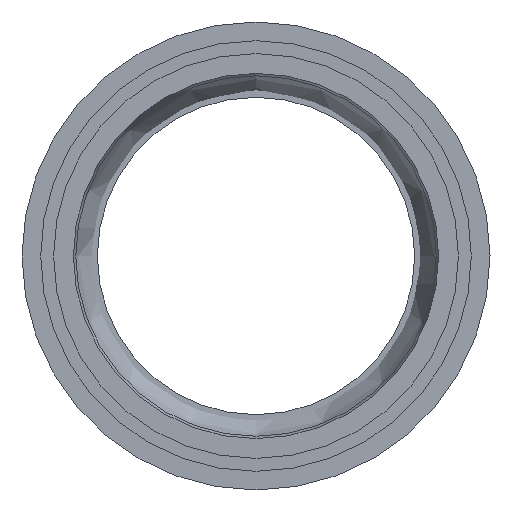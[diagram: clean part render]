
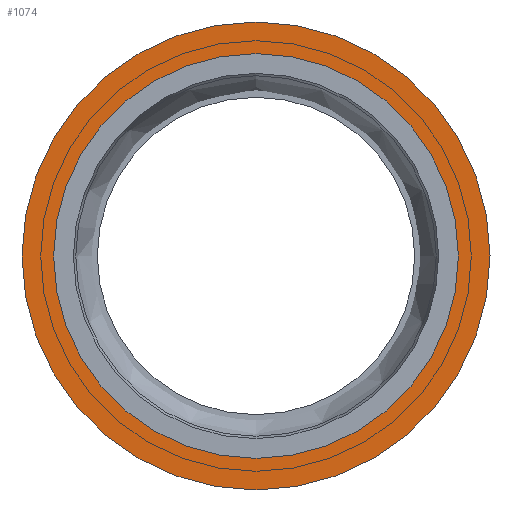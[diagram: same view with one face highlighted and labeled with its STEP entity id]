
A CAD part, left-side view. The second image highlights one B-rep face of the part: STEP entity #1074.
In plain terms, the highlighted planar face has unit normal (-1, 0, 0).
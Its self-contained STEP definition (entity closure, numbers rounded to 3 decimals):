
#135=PLANE('',#1196);
#195=FACE_BOUND('',#377,.T.);
#196=FACE_BOUND('',#378,.T.);
#377=EDGE_LOOP('',(#909));
#378=EDGE_LOOP('',(#910));
#433=CIRCLE('',#1195,32.55);
#434=CIRCLE('',#1197,28.15);
#541=VERTEX_POINT('',#4028);
#542=VERTEX_POINT('',#4031);
#665=EDGE_CURVE('',#541,#541,#433,.T.);
#666=EDGE_CURVE('',#542,#542,#434,.T.);
#909=ORIENTED_EDGE('',*,*,#666,.F.);
#910=ORIENTED_EDGE('',*,*,#665,.T.);
#1074=ADVANCED_FACE('',(#195,#196),#135,.T.);
#1195=AXIS2_PLACEMENT_3D('',#4029,#1425,#1426);
#1196=AXIS2_PLACEMENT_3D('',#4030,#1427,#1428);
#1197=AXIS2_PLACEMENT_3D('',#4032,#1429,#1430);
#1425=DIRECTION('center_axis',(-1.,0.,0.));
#1426=DIRECTION('ref_axis',(0.,0.,
-1.));
#1427=DIRECTION('center_axis',(-1.,0.,0.));
#1428=DIRECTION('ref_axis',(0.,0.,-1.));
#1429=DIRECTION('center_axis',(-1.,0.,0.));
#1430=DIRECTION('ref_axis',(0.,0.,
-1.));
#4028=CARTESIAN_POINT('',(-1545.9,-32.55,0.));
#4029=CARTESIAN_POINT('Origin',(-1545.9,0.,0.));
#4030=CARTESIAN_POINT('Origin',(-1545.9,-28.15,0.));
#4031=CARTESIAN_POINT('',(-1545.9,-28.15,0.));
#4032=CARTESIAN_POINT('Origin',(-1545.9,0.,0.));
